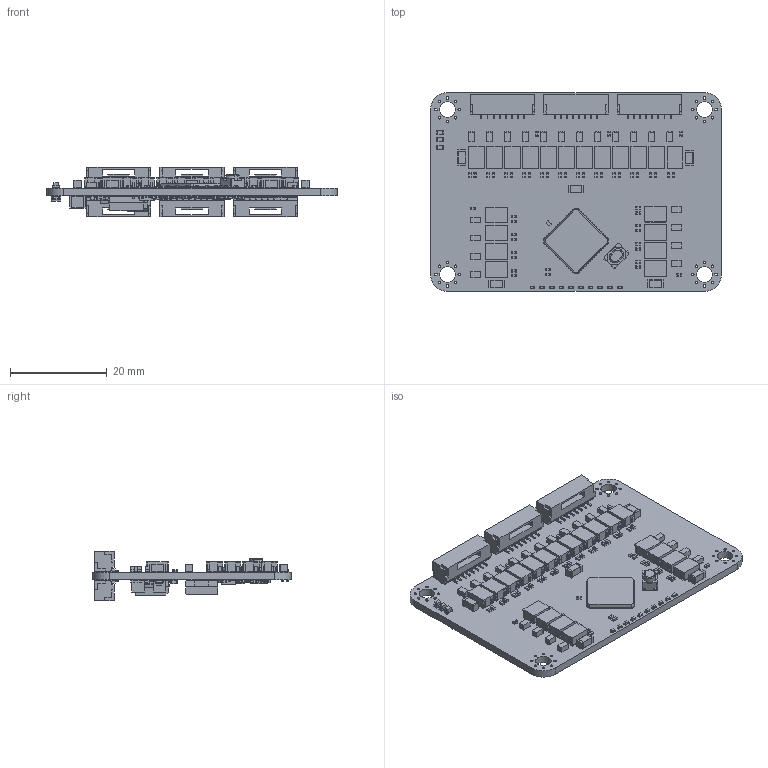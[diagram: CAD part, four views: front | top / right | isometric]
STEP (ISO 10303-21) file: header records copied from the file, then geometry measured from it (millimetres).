
FILE_DESCRIPTION(('KiCad electronic assembly'),'2;1');
FILE_NAME('sw.step','2025-04-09T16:18:42',('Pcbnew'),('Kicad'), 'Open CASCADE STEP processor 7.8','KiCad to STEP converter','Unknown' );
FILE_SCHEMA(('AUTOMOTIVE_DESIGN { 1 0 10303 214 1 1 1 1 }'));
Length unit declared in the file: millimetre
Products named in the file (42): sw 1; ACM2012-900-2P-T002; ACM2012-T002 Block model (typ size); C_0402_1005Metric; ALT4532M-171-T001; ALT4532M-171 Block model (typ size); R_0402_1005Metric; LED_0603_1608Metric; C_1206_3216Metric; LED_0402_1005Metric; JST_GH_SM08B-GHS-TB_1x08-1MP_P1.25mm_Horizontal; JST_SM08B_GHS_TB; PTS810; PTS810 SJK 250 SMTR LFS--3DModel-STEP-1; RTL8367N-VB-CG; TPS54560BDDAR; DDA0008E_ASM; C_0603_1608Metric; L_0603_1608Metric; SOT-323_SC-70; SOT_323_SC_70; R_0603_1608Metric; TPS74801DRCR; DRC10; C_1210_3225Metric; L_Bourns_SRP7028A_7.3x6.6mm; ASSEMBLY; CP_EIA-7343-31_Kemet-D; CP_EIA_7343_31_Kemet_D; Crystal_SMD_3225-4Pin_3.2x2.5mm; eth-sw-RTL8367N_PCB
Assembly tree (212 placements, depth 3):
  sw 1
    ACM2012-900-2P-T002  x20
      ACM2012-T002 Block model (typ size)
    C_0402_1005Metric  x55
      C_0402_1005Metric
    ALT4532M-171-T001  x20
      ALT4532M-171 Block model (typ size)
    R_0402_1005Metric  x48
      R_0402_1005Metric
    LED_0603_1608Metric  x3
      LED_0603_1608Metric
    C_1206_3216Metric  x5
      C_1206_3216Metric
    LED_0402_1005Metric  x10
      LED_0402_1005Metric
    JST_GH_SM08B-GHS-TB_1x08-1MP_P1.25mm_Horizontal  x6
      JST_SM08B_GHS_TB
    PTS810
      PTS810 SJK 250 SMTR LFS--3DModel-STEP-1
    RTL8367N-VB-CG
      RTL8367N-VB-CG
    TPS54560BDDAR
      DDA0008E_ASM
    C_0603_1608Metric  x4
      C_0603_1608Metric
    L_0603_1608Metric  x2
      L_0603_1608Metric
    SOT-323_SC-70
      SOT_323_SC_70
    R_0603_1608Metric  x8
      R_0603_1608Metric
    TPS74801DRCR
      DRC10
    C_1210_3225Metric  x2
      C_1210_3225Metric
    L_Bourns_SRP7028A_7.3x6.6mm
      ASSEMBLY
    CP_EIA-7343-31_Kemet-D
      CP_EIA_7343_31_Kemet_D
    Crystal_SMD_3225-4Pin_3.2x2.5mm
      Crystal_SMD_3225-4Pin_3.2x2.5mm
    eth-sw-RTL8367N_PCB
Bounding box: 60 x 41 x 10.19 mm (x, y, z)
Volume: 5809.9 mm3; surface area: 11246.8 mm2
Topology: 509 solids, 509 shells, 9976 faces, 25483 edges, 16754 vertices
Faces by surface type: plane 8170, cylinder 1758, bspline 36, sphere 10, torus 2
Full cylindrical faces by diameter (mm): 0.5 x32, 3.2 x4
Entity records: 83390 total; most frequent: CARTESIAN_POINT 14591, DIRECTION 12369, ORIENTED_EDGE 12362, EDGE_CURVE 6181, LINE 5141, VECTOR 5141, VERTEX_POINT 4014, AXIS2_PLACEMENT_3D 3614
